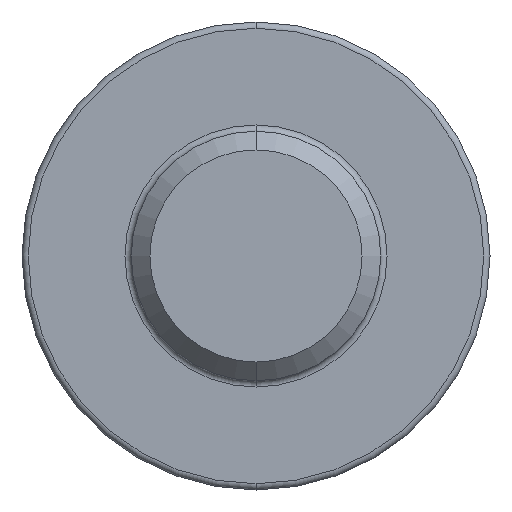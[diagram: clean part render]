
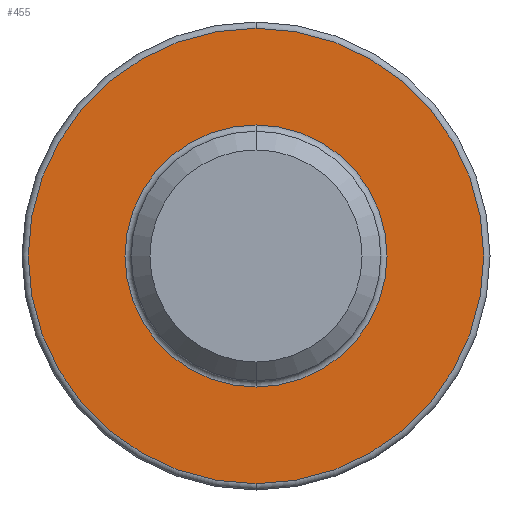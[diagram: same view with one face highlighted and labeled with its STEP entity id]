
A CAD part, front view. The second image highlights one B-rep face of the part: STEP entity #455.
In plain terms, the highlighted planar face has unit normal (0, -1, 0).
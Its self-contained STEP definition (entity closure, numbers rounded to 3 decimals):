
#4 = EDGE_LOOP ( 'NONE', ( #277, #727 ) ) ;
#17 = CARTESIAN_POINT ( 'NONE',  ( 0., -2.4, 0. ) ) ;
#72 = CARTESIAN_POINT ( 'NONE',  ( 0., -2.4, -3.65 ) ) ;
#74 = CARTESIAN_POINT ( 'NONE',  ( 0., -2.4, -2.1 ) ) ;
#90 = CARTESIAN_POINT ( 'NONE',  ( 0., -2.4, 0. ) ) ;
#95 = CARTESIAN_POINT ( 'NONE',  ( 2., -2.4, 0. ) ) ;
#125 = DIRECTION ( 'NONE',  ( 0., 1., 0. ) ) ;
#129 = DIRECTION ( 'NONE',  ( 0., -1., 0. ) ) ;
#142 = DIRECTION ( 'NONE',  ( 0., 0., 1. ) ) ;
#167 = AXIS2_PLACEMENT_3D ( 'NONE', #95, #365, #237 ) ;
#191 = AXIS2_PLACEMENT_3D ( 'NONE', #17, #735, #142 ) ;
#194 = CARTESIAN_POINT ( 'NONE',  ( 0., -2.4, 0. ) ) ;
#237 = DIRECTION ( 'NONE',  ( 0., 0., 1. ) ) ;
#242 = CIRCLE ( 'NONE', #520, 3.65 ) ;
#272 = DIRECTION ( 'NONE',  ( 0., 1., 0. ) ) ;
#277 = ORIENTED_EDGE ( 'NONE', *, *, #809, .T. ) ;
#309 = VERTEX_POINT ( 'NONE', #74 ) ;
#326 = EDGE_LOOP ( 'NONE', ( #480, #825 ) ) ;
#335 = CIRCLE ( 'NONE', #191, 3.65 ) ;
#365 = DIRECTION ( 'NONE',  ( 0., 1., 0. ) ) ;
#366 = EDGE_CURVE ( 'NONE', #856, #561, #335, .T. ) ;
#381 = CIRCLE ( 'NONE', #492, 2.1 ) ;
#404 = CARTESIAN_POINT ( 'NONE',  ( 0., -2.4, 0. ) ) ;
#433 = FACE_OUTER_BOUND ( 'NONE', #326, .T. ) ;
#455 = ADVANCED_FACE ( 'NONE', ( #626, #433 ), #638, .F. ) ;
#480 = ORIENTED_EDGE ( 'NONE', *, *, #780, .T. ) ;
#483 = DIRECTION ( 'NONE',  ( 0., 0., 1. ) ) ;
#492 = AXIS2_PLACEMENT_3D ( 'NONE', #90, #125, #781 ) ;
#520 = AXIS2_PLACEMENT_3D ( 'NONE', #404, #129, #665 ) ;
#561 = VERTEX_POINT ( 'NONE', #834 ) ;
#580 = CIRCLE ( 'NONE', #658, 2.1 ) ;
#589 = CARTESIAN_POINT ( 'NONE',  ( 0., -2.4, 2.1 ) ) ;
#599 = EDGE_CURVE ( 'NONE', #309, #722, #381, .T. ) ;
#626 = FACE_BOUND ( 'NONE', #4, .T. ) ;
#638 = PLANE ( 'NONE',  #167 ) ;
#658 = AXIS2_PLACEMENT_3D ( 'NONE', #194, #272, #483 ) ;
#665 = DIRECTION ( 'NONE',  ( 0., 0., 1. ) ) ;
#722 = VERTEX_POINT ( 'NONE', #589 ) ;
#727 = ORIENTED_EDGE ( 'NONE', *, *, #599, .T. ) ;
#735 = DIRECTION ( 'NONE',  ( 0., -1., 0. ) ) ;
#780 = EDGE_CURVE ( 'NONE', #561, #856, #242, .T. ) ;
#781 = DIRECTION ( 'NONE',  ( 0., 0., 1. ) ) ;
#809 = EDGE_CURVE ( 'NONE', #722, #309, #580, .T. ) ;
#825 = ORIENTED_EDGE ( 'NONE', *, *, #366, .T. ) ;
#834 = CARTESIAN_POINT ( 'NONE',  ( 0., -2.4, 3.65 ) ) ;
#856 = VERTEX_POINT ( 'NONE', #72 ) ;
